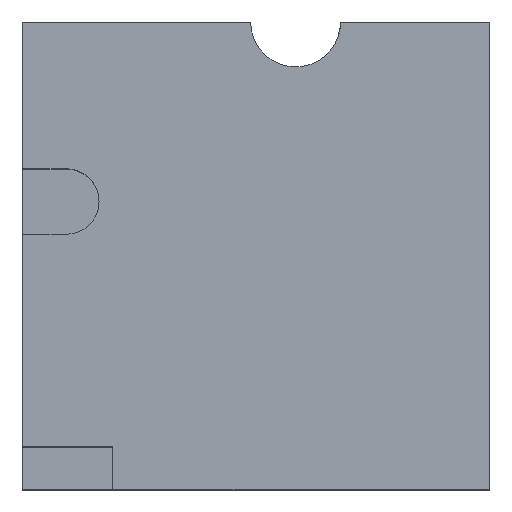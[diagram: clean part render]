
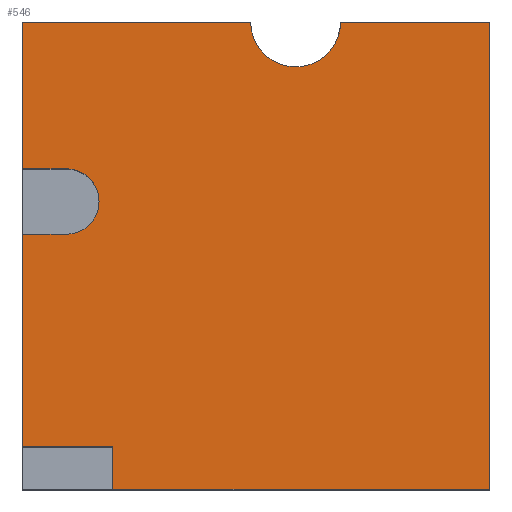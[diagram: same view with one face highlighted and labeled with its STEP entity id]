
A CAD part, top view. The second image highlights one B-rep face of the part: STEP entity #546.
In plain terms, the highlighted planar face has unit normal (0, 0, 1).
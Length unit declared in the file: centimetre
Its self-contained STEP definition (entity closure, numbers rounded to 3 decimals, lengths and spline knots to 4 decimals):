
#5 = CARTESIAN_POINT ( 'NONE',  ( 0., 1000., 1000. ) ) ;
#16 = VERTEX_POINT ( 'NONE', #103 ) ;
#31 = CARTESIAN_POINT ( 'NONE',  ( 681.066, 1000., 1000. ) ) ;
#32 = ORIENTED_EDGE ( 'NONE', *, *, #58, .T. ) ;
#33 = VECTOR ( 'NONE', #751, 100. ) ;
#34 = DIRECTION ( 'NONE',  ( 0., 1., 0. ) ) ;
#40 = DIRECTION ( 'NONE',  ( 1., 0., 0. ) ) ;
#52 = EDGE_CURVE ( 'NONE', #509, #951, #205, .T. ) ;
#53 = LINE ( 'NONE', #756, #916 ) ;
#58 = EDGE_CURVE ( 'NONE', #688, #774, #313, .T. ) ;
#103 = CARTESIAN_POINT ( 'NONE',  ( 193.3117, 90.6057, 1000. ) ) ;
#106 = ORIENTED_EDGE ( 'NONE', *, *, #257, .F. ) ;
#111 = ORIENTED_EDGE ( 'NONE', *, *, #1099, .F. ) ;
#121 = VECTOR ( 'NONE', #1006, 100. ) ;
#149 = CARTESIAN_POINT ( 'NONE',  ( 0., 1000., 1000. ) ) ;
#167 = DIRECTION ( 'NONE',  ( -1., 0., 0. ) ) ;
#175 = DIRECTION ( 'NONE',  ( -1., 0., 0. ) ) ;
#180 = DIRECTION ( 'NONE',  ( 0., 0., -1. ) ) ;
#195 = AXIS2_PLACEMENT_3D ( 'NONE', #919, #834, #40 ) ;
#205 = CIRCLE ( 'NONE', #1081, 70.09 ) ;
#223 = CARTESIAN_POINT ( 'NONE',  ( 193.3117, 0., 1000. ) ) ;
#235 = CARTESIAN_POINT ( 'NONE',  ( 94.0512, 685.8689, 1000. ) ) ;
#246 = DIRECTION ( 'NONE',  ( 1., 0., 0. ) ) ;
#249 = ORIENTED_EDGE ( 'NONE', *, *, #1113, .T. ) ;
#257 = EDGE_CURVE ( 'NONE', #16, #912, #1054, .T. ) ;
#268 = VECTOR ( 'NONE', #411, 100. ) ;
#270 = ORIENTED_EDGE ( 'NONE', *, *, #987, .T. ) ;
#286 = VERTEX_POINT ( 'NONE', #5 ) ;
#296 = CARTESIAN_POINT ( 'NONE',  ( 0., 685.8689, 1000. ) ) ;
#307 = LINE ( 'NONE', #832, #121 ) ;
#309 = CARTESIAN_POINT ( 'NONE',  ( 94.0512, 545.6888, 1000. ) ) ;
#313 = CIRCLE ( 'NONE', #968, 96.2298 ) ;
#324 = LINE ( 'NONE', #596, #485 ) ;
#331 = EDGE_LOOP ( 'NONE', ( #997, #111, #894, #882, #1088, #106, #642, #733, #660, #270, #32, #249, #749 ) ) ;
#371 = CARTESIAN_POINT ( 'NONE',  ( 0., 90.6057, 1000. ) ) ;
#402 = VERTEX_POINT ( 'NONE', #1095 ) ;
#409 = FACE_OUTER_BOUND ( 'NONE', #331, .T. ) ;
#411 = DIRECTION ( 'NONE',  ( 0., -1., 0. ) ) ;
#445 = DIRECTION ( 'NONE',  ( 1., 0., 0. ) ) ;
#466 = LINE ( 'NONE', #921, #33 ) ;
#485 = VECTOR ( 'NONE', #167, 100. ) ;
#489 = PLANE ( 'NONE',  #827 ) ;
#494 = DIRECTION ( 'NONE',  ( 1., 0., 0. ) ) ;
#509 = VERTEX_POINT ( 'NONE', #309 ) ;
#520 = VERTEX_POINT ( 'NONE', #223 ) ;
#530 = CARTESIAN_POINT ( 'NONE',  ( 94.0512, 685.8689, 1000. ) ) ;
#540 = DIRECTION ( 'NONE',  ( -1., 0., 0. ) ) ;
#545 = CARTESIAN_POINT ( 'NONE',  ( 94.0512, 615.7788, 1000. ) ) ;
#546 = ADVANCED_FACE ( 'NONE', ( #409 ), #489, .T. ) ;
#559 = VECTOR ( 'NONE', #676, 100. ) ;
#561 = CARTESIAN_POINT ( 'NONE',  ( 0., 1000., 1000. ) ) ;
#581 = EDGE_CURVE ( 'NONE', #286, #1076, #598, .T. ) ;
#596 = CARTESIAN_POINT ( 'NONE',  ( 0., 1000., 1000. ) ) ;
#598 = LINE ( 'NONE', #149, #268 ) ;
#599 = VECTOR ( 'NONE', #494, 100. ) ;
#623 = EDGE_CURVE ( 'NONE', #402, #912, #1036, .T. ) ;
#642 = ORIENTED_EDGE ( 'NONE', *, *, #812, .T. ) ;
#657 = CARTESIAN_POINT ( 'NONE',  ( 488.6065, 1000., 1000. ) ) ;
#660 = ORIENTED_EDGE ( 'NONE', *, *, #833, .T. ) ;
#673 = VECTOR ( 'NONE', #856, 100. ) ;
#676 = DIRECTION ( 'NONE',  ( -1., 0., 0. ) ) ;
#688 = VERTEX_POINT ( 'NONE', #31 ) ;
#695 = CIRCLE ( 'NONE', #195, 70.09 ) ;
#705 = VERTEX_POINT ( 'NONE', #530 ) ;
#733 = ORIENTED_EDGE ( 'NONE', *, *, #781, .T. ) ;
#749 = ORIENTED_EDGE ( 'NONE', *, *, #581, .T. ) ;
#751 = DIRECTION ( 'NONE',  ( 0., -1., 0. ) ) ;
#756 = CARTESIAN_POINT ( 'NONE',  ( 1000., 1000., 1000. ) ) ;
#771 = CARTESIAN_POINT ( 'NONE',  ( 164.1413, 615.7788, 1000. ) ) ;
#774 = VERTEX_POINT ( 'NONE', #657 ) ;
#778 = LINE ( 'NONE', #1120, #599 ) ;
#781 = EDGE_CURVE ( 'NONE', #520, #817, #307, .T. ) ;
#789 = CARTESIAN_POINT ( 'NONE',  ( 0., 1000., 1000. ) ) ;
#812 = EDGE_CURVE ( 'NONE', #16, #520, #466, .T. ) ;
#817 = VERTEX_POINT ( 'NONE', #1022 ) ;
#827 = AXIS2_PLACEMENT_3D ( 'NONE', #865, #955, #246 ) ;
#832 = CARTESIAN_POINT ( 'NONE',  ( 0., 0., 1000. ) ) ;
#833 = EDGE_CURVE ( 'NONE', #817, #908, #53, .T. ) ;
#834 = DIRECTION ( 'NONE',  ( 0., 0., 1. ) ) ;
#856 = DIRECTION ( 'NONE',  ( 0., -1., 0. ) ) ;
#860 = CARTESIAN_POINT ( 'NONE',  ( 0., 90.6057, 1000. ) ) ;
#865 = CARTESIAN_POINT ( 'NONE',  ( 0., 0., 1000. ) ) ;
#875 = EDGE_CURVE ( 'NONE', #705, #1076, #949, .T. ) ;
#882 = ORIENTED_EDGE ( 'NONE', *, *, #896, .F. ) ;
#886 = DIRECTION ( 'NONE',  ( 0., 0., 1. ) ) ;
#894 = ORIENTED_EDGE ( 'NONE', *, *, #52, .F. ) ;
#896 = EDGE_CURVE ( 'NONE', #402, #509, #778, .T. ) ;
#908 = VERTEX_POINT ( 'NONE', #1031 ) ;
#912 = VERTEX_POINT ( 'NONE', #860 ) ;
#916 = VECTOR ( 'NONE', #34, 100. ) ;
#919 = CARTESIAN_POINT ( 'NONE',  ( 94.0512, 615.7788, 1000. ) ) ;
#921 = CARTESIAN_POINT ( 'NONE',  ( 193.3117, 90.6057, 1000. ) ) ;
#932 = LINE ( 'NONE', #561, #1101 ) ;
#949 = LINE ( 'NONE', #235, #559 ) ;
#951 = VERTEX_POINT ( 'NONE', #771 ) ;
#955 = DIRECTION ( 'NONE',  ( 0., 0., 1. ) ) ;
#968 = AXIS2_PLACEMENT_3D ( 'NONE', #1069, #180, #175 ) ;
#987 = EDGE_CURVE ( 'NONE', #908, #688, #932, .T. ) ;
#997 = ORIENTED_EDGE ( 'NONE', *, *, #875, .F. ) ;
#1006 = DIRECTION ( 'NONE',  ( 1., 0., 0. ) ) ;
#1013 = DIRECTION ( 'NONE',  ( -1., 0., 0. ) ) ;
#1022 = CARTESIAN_POINT ( 'NONE',  ( 1000., 0., 1000. ) ) ;
#1031 = CARTESIAN_POINT ( 'NONE',  ( 1000., 1000., 1000. ) ) ;
#1036 = LINE ( 'NONE', #789, #673 ) ;
#1044 = VECTOR ( 'NONE', #540, 100. ) ;
#1054 = LINE ( 'NONE', #371, #1044 ) ;
#1069 = CARTESIAN_POINT ( 'NONE',  ( 584.8363, 1000., 1000. ) ) ;
#1076 = VERTEX_POINT ( 'NONE', #296 ) ;
#1081 = AXIS2_PLACEMENT_3D ( 'NONE', #545, #886, #445 ) ;
#1088 = ORIENTED_EDGE ( 'NONE', *, *, #623, .T. ) ;
#1095 = CARTESIAN_POINT ( 'NONE',  ( 0., 545.6888, 1000. ) ) ;
#1099 = EDGE_CURVE ( 'NONE', #951, #705, #695, .T. ) ;
#1101 = VECTOR ( 'NONE', #1013, 100. ) ;
#1113 = EDGE_CURVE ( 'NONE', #774, #286, #324, .T. ) ;
#1120 = CARTESIAN_POINT ( 'NONE',  ( 0., 545.6888, 1000. ) ) ;
